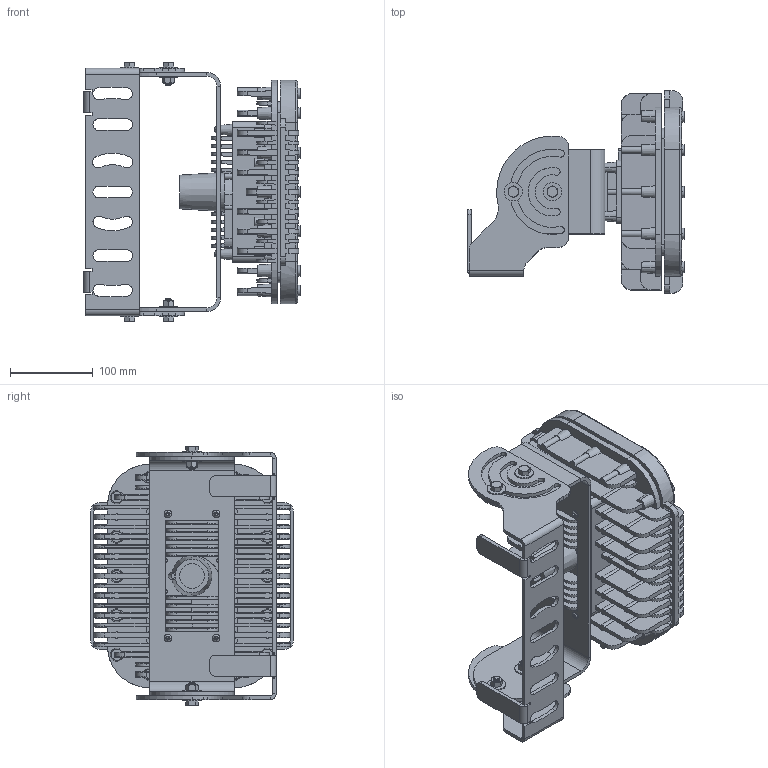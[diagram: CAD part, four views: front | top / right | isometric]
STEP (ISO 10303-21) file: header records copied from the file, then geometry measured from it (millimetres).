
FILE_DESCRIPTION (( 'STEP AP214' ), '1' );
FILE_NAME ('EPL-WPLED-70W-DL-B.STEP', '2016-01-08T21:45:40', ( '' ), ( '' ), 'SwSTEP 2.0', 'SolidWorks 2016', '' );
FILE_SCHEMA (( 'AUTOMOTIVE_DESIGN' ));
Length unit declared in the file: inch
Products named in the file (8): hex bolt_ai_HBOLT 0.3125-18x0.875x0.875-S; hex nut_ai_HNUT 0.3125-18-D-N; flat washer type b regular_ai_Regular FW 0.3125; socket button head cap screw_ai_SBHCSCREW 0.19-32x0.25-HX-N; EPL-WPLED-70W-DL-B Bracket; MIL Bracket; EPL-LP-70W-LED; EPL-WPLED-70W-DL-B
Assembly tree (23 placements, depth 2):
  EPL-WPLED-70W-DL-B
    EPL-LP-70W-LED
    MIL Bracket
    EPL-WPLED-70W-DL-B Bracket
    socket button head cap screw_ai_SBHCSCREW 0.19-32x0.25-HX-N  x4
    flat washer type b regular_ai_Regular FW 0.3125  x8
    hex nut_ai_HNUT 0.3125-18-D-N  x4
    hex bolt_ai_HBOLT 0.3125-18x0.875x0.875-S  x4
Bounding box: 261.81 x 244.47 x 313.94 mm (x, y, z)
Volume: 3093092.8 mm3; surface area: 687820.1 mm2
Topology: 23 solids, 23 shells, 2110 faces, 5780 edges, 3722 vertices
Faces by surface type: plane 995, cylinder 682, cone 410, torus 12, sphere 8, bspline 3
Entity records: 52597 total; most frequent: CARTESIAN_POINT 11204, ORIENTED_EDGE 9036, DIRECTION 8310, EDGE_CURVE 4518, VERTEX_POINT 2949, LINE 2774, VECTOR 2774, AXIS2_PLACEMENT_3D 2768
